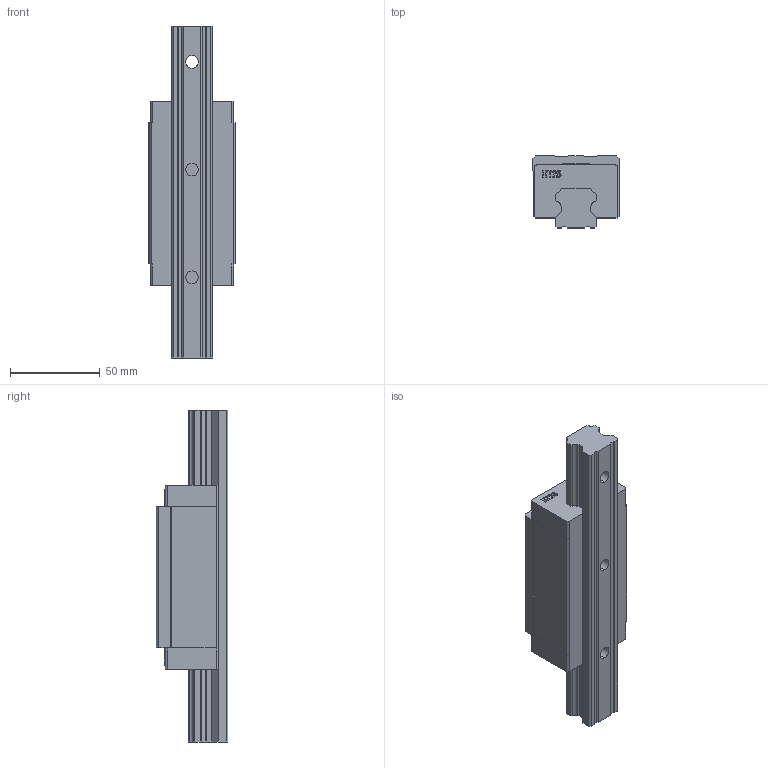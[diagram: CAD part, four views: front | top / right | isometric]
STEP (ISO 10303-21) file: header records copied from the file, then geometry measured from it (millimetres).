
FILE_DESCRIPTION (( 'STEP AP214' ), '1' );
FILE_NAME ('7.1025 Lineaarikelkka HTH25HA.STEP', '2026-03-11T06:49:03', ( '' ), ( '' ), 'SwSTEP 2.0', 'SolidWorks 2025', '' );
FILE_SCHEMA (( 'AUTOMOTIVE_DESIGN' ));
Length unit declared in the file: millimetre
Products named in the file (5): ASM0001_ASM; HGH25H_ANY_ASM; HG_BLOCK_HGHHA_ANY; 7.1025 Lineaarikelkka HTH25HA; PRT0001
Assembly tree (4 placements, depth 4):
  7.1025 Lineaarikelkka HTH25HA
    HGH25H_ANY_ASM
      ASM0001_ASM
        HG_BLOCK_HGHHA_ANY
      PRT0001
Bounding box: 48 x 40 x 185 mm (x, y, z)
Volume: 204576.4 mm3; surface area: 43195.5 mm2
Topology: 2 solids, 2 shells, 216 faces, 595 edges, 392 vertices
Faces by surface type: plane 152, cylinder 32, bspline 24, cone 8
Entity records: 11219 total; most frequent: CARTESIAN_POINT 3304, ORIENTED_EDGE 1174, DIRECTION 1011, EDGE_CURVE 587, VECTOR 469, LINE 469, VERTEX_POINT 392, AXIS2_PLACEMENT_3D 271
